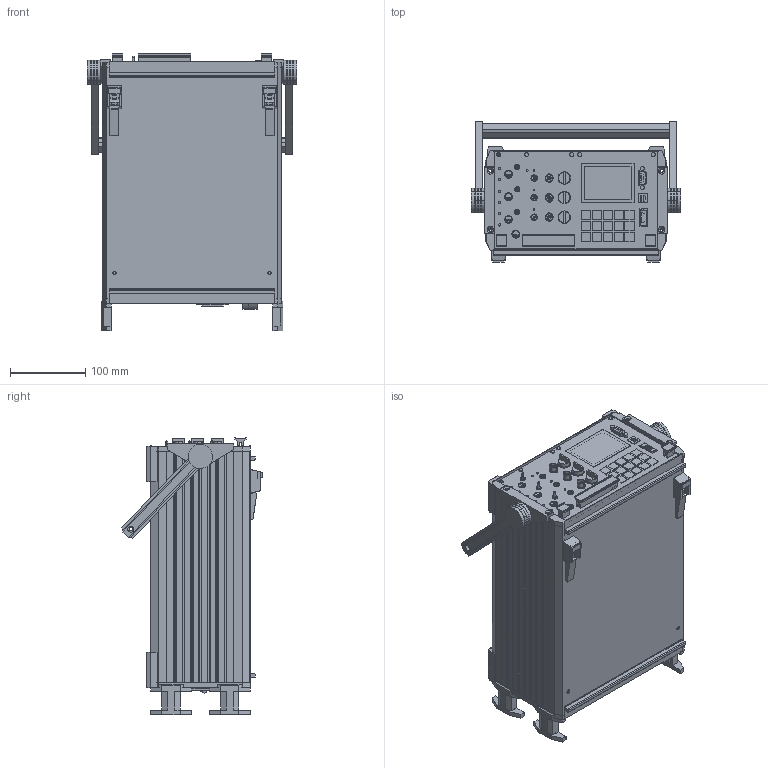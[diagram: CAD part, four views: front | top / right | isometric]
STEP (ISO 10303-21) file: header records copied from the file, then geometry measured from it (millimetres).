
FILE_DESCRIPTION (( 'STEP AP203' ), '1' );
FILE_NAME ('E01.儂眊 -陔.STEP', '2021-10-26T07:58:30', ( '' ), ( '' ), 'SwSTEP 2.0', 'SolidWorks 2016', '' );
FILE_SCHEMA (( 'CONFIG_CONTROL_DESIGN' ));
Length unit declared in the file: millimetre
Products named in the file (1): E01.儂眊 -陔
Bounding box: 277.5 x 186.33 x 368.15 mm (x, y, z)
Surface area: 608865.2 mm2 (no closed solid volume)
Topology: 0 solids, 184 shells, 1531 faces, 6795 edges, 5308 vertices
Faces by surface type: plane 818, cylinder 661, cone 20, bspline 15, sphere 9, torus 8
Entity records: 73865 total; most frequent: CARTESIAN_POINT 20454, DIRECTION 11017, ORIENTED_EDGE 9017, EDGE_CURVE 6780, VERTEX_POINT 5302, LINE 4401, VECTOR 4401, AXIS2_PLACEMENT_3D 3308
